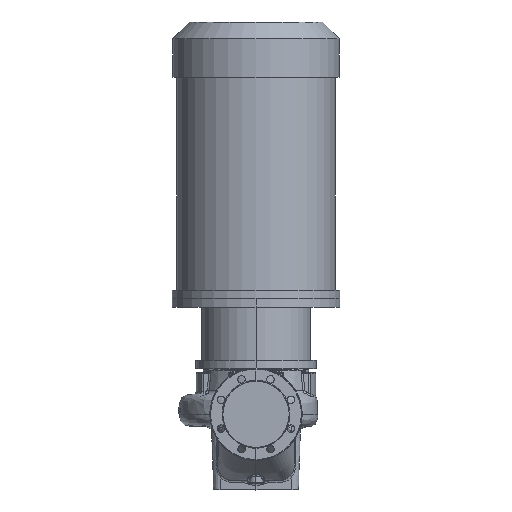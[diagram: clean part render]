
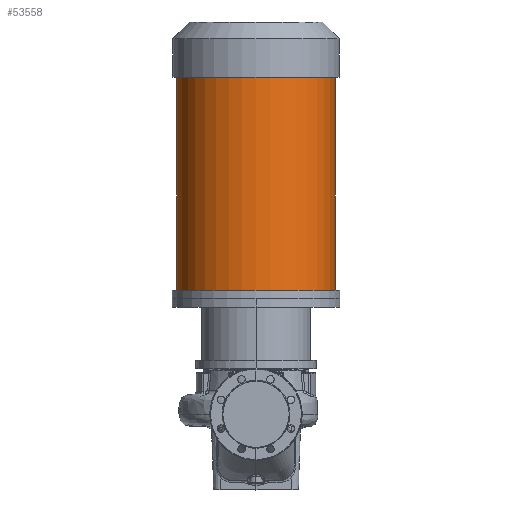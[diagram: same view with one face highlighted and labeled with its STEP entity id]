
A CAD part, top view. The second image highlights one B-rep face of the part: STEP entity #53558.
In plain terms, the highlighted cylindrical face has radius 188.5 mm (diameter 377 mm), a partial arc.
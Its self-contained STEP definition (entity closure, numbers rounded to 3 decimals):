
#233 = DIRECTION ( 'NONE',  ( 0., -1., 0. ) ) ;
#1494 = LINE ( 'NONE', #42349, #50507 ) ;
#2608 = LINE ( 'NONE', #55403, #23003 ) ;
#3166 = VERTEX_POINT ( 'NONE', #52276 ) ;
#4744 = EDGE_CURVE ( 'NONE', #23612, #3166, #2608, .T. ) ;
#5297 = ORIENTED_EDGE ( 'NONE', *, *, #58704, .T. ) ;
#6626 = ORIENTED_EDGE ( 'NONE', *, *, #4744, .T. ) ;
#7602 = EDGE_CURVE ( 'NONE', #38527, #3166, #38768, .T. ) ;
#8596 = CARTESIAN_POINT ( 'NONE',  ( 0., 275.8, 0. ) ) ;
#12305 = EDGE_LOOP ( 'NONE', ( #51789, #5297, #6626, #41594 ) ) ;
#13427 = DIRECTION ( 'NONE',  ( 0., -1., 0. ) ) ;
#14477 = DIRECTION ( 'NONE',  ( -1., 0., 0. ) ) ;
#16934 = EDGE_CURVE ( 'NONE', #39227, #38527, #1494, .T. ) ;
#18716 = DIRECTION ( 'NONE',  ( 0., -1., 0. ) ) ;
#19002 = DIRECTION ( 'NONE',  ( -1., 0., 0. ) ) ;
#21483 = AXIS2_PLACEMENT_3D ( 'NONE', #8596, #61817, #38357 ) ;
#23003 = VECTOR ( 'NONE', #41865, 1000. ) ;
#23612 = VERTEX_POINT ( 'NONE', #52993 ) ;
#25869 = CARTESIAN_POINT ( 'NONE',  ( 188.5, 295.8, 0. ) ) ;
#26661 = CIRCLE ( 'NONE', #38593, 188.5 ) ;
#31352 = CARTESIAN_POINT ( 'NONE',  ( 0., 295.8, 0. ) ) ;
#31683 = AXIS2_PLACEMENT_3D ( 'NONE', #31352, #18716, #14477 ) ;
#35974 = FACE_OUTER_BOUND ( 'NONE', #12305, .T. ) ;
#38357 = DIRECTION ( 'NONE',  ( -1., 0., 0. ) ) ;
#38527 = VERTEX_POINT ( 'NONE', #25869 ) ;
#38593 = AXIS2_PLACEMENT_3D ( 'NONE', #48778, #233, #19002 ) ;
#38768 = CIRCLE ( 'NONE', #31683, 188.5 ) ;
#39227 = VERTEX_POINT ( 'NONE', #46726 ) ;
#41594 = ORIENTED_EDGE ( 'NONE', *, *, #7602, .F. ) ;
#41865 = DIRECTION ( 'NONE',  ( 0., -1., 0. ) ) ;
#42349 = CARTESIAN_POINT ( 'NONE',  ( 188.5, 275.8, 0. ) ) ;
#46726 = CARTESIAN_POINT ( 'NONE',  ( 188.5, 803.8, 0. ) ) ;
#48778 = CARTESIAN_POINT ( 'NONE',  ( 0., 803.8, 0. ) ) ;
#50507 = VECTOR ( 'NONE', #13427, 1000. ) ;
#51789 = ORIENTED_EDGE ( 'NONE', *, *, #16934, .F. ) ;
#52276 = CARTESIAN_POINT ( 'NONE',  ( -188.5, 295.8, 0. ) ) ;
#52993 = CARTESIAN_POINT ( 'NONE',  ( -188.5, 803.8, 0. ) ) ;
#53558 = ADVANCED_FACE ( 'NONE', ( #35974 ), #62388, .T. ) ;
#55403 = CARTESIAN_POINT ( 'NONE',  ( -188.5, 275.8, 0. ) ) ;
#58704 = EDGE_CURVE ( 'NONE', #39227, #23612, #26661, .T. ) ;
#61817 = DIRECTION ( 'NONE',  ( 0., -1., 0. ) ) ;
#62388 = CYLINDRICAL_SURFACE ( 'NONE', #21483, 188.5 ) ;
